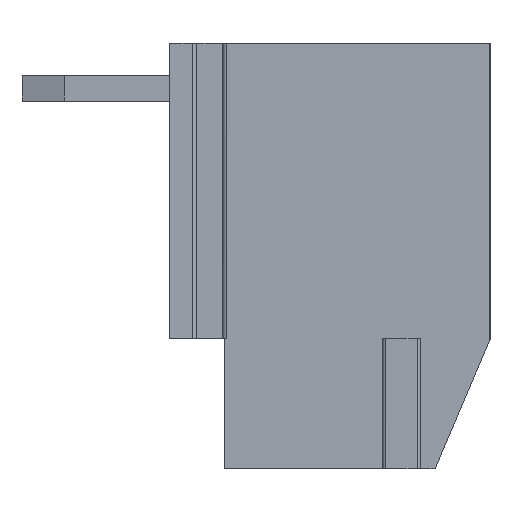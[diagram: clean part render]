
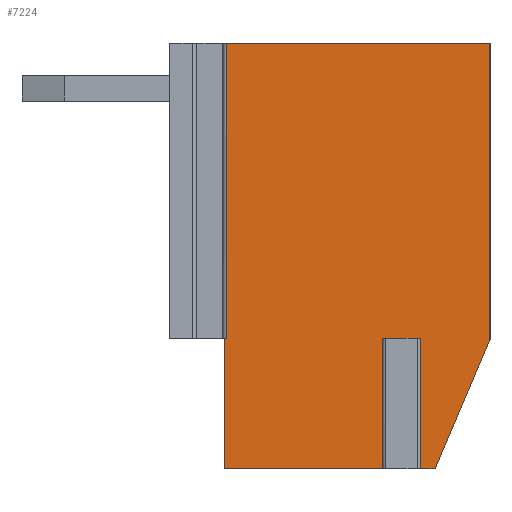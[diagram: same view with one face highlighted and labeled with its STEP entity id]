
A CAD part, left-side view. The second image highlights one B-rep face of the part: STEP entity #7224.
In plain terms, the highlighted planar face has unit normal (-1, 0, 0).
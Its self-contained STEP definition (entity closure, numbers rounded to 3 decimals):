
#159=DIRECTION('',(0.,1.,0.));
#160=VECTOR('',#159,6.24);
#161=CARTESIAN_POINT('',(0.5,0.,0.));
#162=LINE('',#161,#160);
#167=DIRECTION('',(0.,0.,-1.));
#168=VECTOR('',#167,7.);
#169=CARTESIAN_POINT('',(0.5,6.24,0.));
#170=LINE('',#169,#168);
#184=DIRECTION('',(0.,0.,-1.));
#185=VECTOR('',#184,3.1);
#186=CARTESIAN_POINT('',(0.5,6.3,-7.));
#187=LINE('',#186,#185);
#205=DIRECTION('',(0.,-1.,0.));
#206=VECTOR('',#205,0.06);
#207=CARTESIAN_POINT('',(0.5,6.3,-7.));
#208=LINE('',#207,#206);
#209=DIRECTION('',(0.,0.391,-0.921));
#210=VECTOR('',#209,3.327);
#211=CARTESIAN_POINT('',(0.5,0.,-7.037));
#212=LINE('',#211,#210);
#253=DIRECTION('',(0.,-1.,0.));
#254=VECTOR('',#253,0.61);
#255=CARTESIAN_POINT('',(0.5,2.405,-7.));
#256=LINE('',#255,#254);
#261=DIRECTION('',(0.,0.,-1.));
#262=VECTOR('',#261,3.1);
#263=CARTESIAN_POINT('',(0.5,1.795,-7.));
#264=LINE('',#263,#262);
#265=DIRECTION('',(0.,-1.,0.));
#266=VECTOR('',#265,3.895);
#267=CARTESIAN_POINT('',(0.5,6.3,-10.1));
#268=LINE('',#267,#266);
#309=DIRECTION('',(0.,-1.,0.));
#310=VECTOR('',#309,0.495);
#311=CARTESIAN_POINT('',(0.5,1.795,-10.1));
#312=LINE('',#311,#310);
#435=DIRECTION('',(0.,0.,1.));
#436=VECTOR('',#435,3.1);
#437=CARTESIAN_POINT('',(0.5,2.405,-10.1));
#438=LINE('',#437,#436);
#463=DIRECTION('',(0.,0.,1.));
#464=VECTOR('',#463,7.037);
#465=CARTESIAN_POINT('',(0.5,0.,-7.037));
#466=LINE('',#465,#464);
#5561=CARTESIAN_POINT('',(0.5,6.24,0.));
#5563=VERTEX_POINT('',#5561);
#5585=CARTESIAN_POINT('',(0.5,0.,0.));
#5586=VERTEX_POINT('',#5585);
#5591=CARTESIAN_POINT('',(0.5,6.24,-7.));
#5592=VERTEX_POINT('',#5591);
#5595=CARTESIAN_POINT('',(0.5,6.3,-7.));
#5596=VERTEX_POINT('',#5595);
#5597=CARTESIAN_POINT('',(0.5,6.3,-10.1));
#5598=VERTEX_POINT('',#5597);
#5601=CARTESIAN_POINT('',(0.5,2.405,-7.));
#5602=CARTESIAN_POINT('',(0.5,1.795,-7.));
#5603=VERTEX_POINT('',#5601);
#5604=VERTEX_POINT('',#5602);
#5605=CARTESIAN_POINT('',(0.5,2.405,-10.1));
#5606=VERTEX_POINT('',#5605);
#5607=CARTESIAN_POINT('',(0.5,0.,-7.037));
#5608=VERTEX_POINT('',#5607);
#5609=CARTESIAN_POINT('',(0.5,1.3,-10.1));
#5610=VERTEX_POINT('',#5609);
#5611=CARTESIAN_POINT('',(0.5,1.795,-10.1));
#5612=VERTEX_POINT('',#5611);
#7199=CARTESIAN_POINT('',(0.5,3.8,0.));
#7200=DIRECTION('',(1.,0.,0.));
#7201=DIRECTION('',(0.,-1.,0.));
#7202=AXIS2_PLACEMENT_3D('',#7199,#7200,#7201);
#7203=PLANE('',#7202);
#7205=ORIENTED_EDGE('',*,*,#7204,.F.);
#7207=ORIENTED_EDGE('',*,*,#7206,.F.);
#7209=ORIENTED_EDGE('',*,*,#7208,.F.);
#7210=ORIENTED_EDGE('',*,*,#7174,.F.);
#7211=ORIENTED_EDGE('',*,*,#7194,.T.);
#7212=ORIENTED_EDGE('',*,*,#7147,.F.);
#7213=ORIENTED_EDGE('',*,*,#7132,.F.);
#7215=ORIENTED_EDGE('',*,*,#7214,.F.);
#7217=ORIENTED_EDGE('',*,*,#7216,.T.);
#7219=ORIENTED_EDGE('',*,*,#7218,.F.);
#7221=ORIENTED_EDGE('',*,*,#7220,.F.);
#7222=EDGE_LOOP('',(#7205,#7207,#7209,#7210,#7211,#7212,#7213,#7215,#7217,#7219,
#7221));
#7223=FACE_OUTER_BOUND('',#7222,.F.);
#7224=ADVANCED_FACE('',(#7223),#7203,.F.);
#7132=EDGE_CURVE('',#5586,#5563,#162,.T.);
#7147=EDGE_CURVE('',#5563,#5592,#170,.T.);
#7174=EDGE_CURVE('',#5596,#5598,#187,.T.);
#7194=EDGE_CURVE('',#5596,#5592,#208,.T.);
#7204=EDGE_CURVE('',#5603,#5604,#256,.T.);
#7206=EDGE_CURVE('',#5606,#5603,#438,.T.);
#7208=EDGE_CURVE('',#5598,#5606,#268,.T.);
#7214=EDGE_CURVE('',#5608,#5586,#466,.T.);
#7216=EDGE_CURVE('',#5608,#5610,#212,.T.);
#7218=EDGE_CURVE('',#5612,#5610,#312,.T.);
#7220=EDGE_CURVE('',#5604,#5612,#264,.T.);
